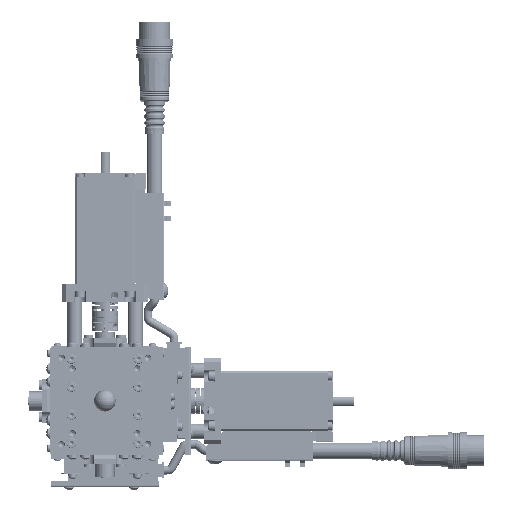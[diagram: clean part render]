
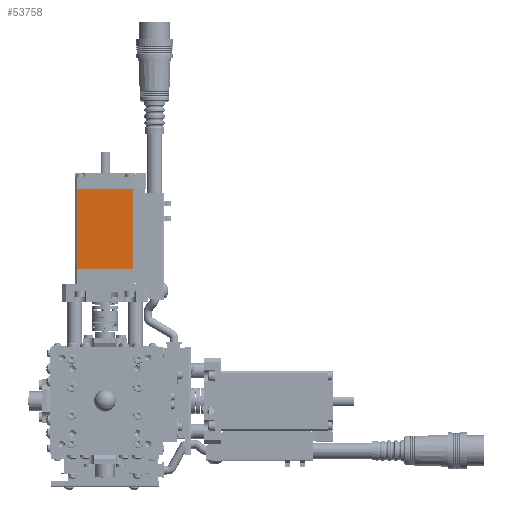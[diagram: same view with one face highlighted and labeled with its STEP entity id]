
A CAD part, top view. The second image highlights one B-rep face of the part: STEP entity #53758.
In plain terms, the highlighted planar face has unit normal (0, 0, 1).
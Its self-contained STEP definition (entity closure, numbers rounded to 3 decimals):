
#2306 = EDGE_CURVE ( 'NONE', #45730, #76812, #139454, .T. ) ;
#13093 = VERTEX_POINT ( 'NONE', #154929 ) ;
#22256 = EDGE_CURVE ( 'NONE', #45730, #13093, #37128, .T. ) ;
#32355 = CARTESIAN_POINT ( 'NONE',  ( -25.589, 75.856, -48.629 ) ) ;
#35483 = EDGE_CURVE ( 'NONE', #76812, #139458, #57695, .T. ) ;
#37128 = LINE ( 'NONE', #121411, #128581 ) ;
#45730 = VERTEX_POINT ( 'NONE', #81899 ) ;
#51858 = DIRECTION ( 'NONE',  ( 1., 0., 0. ) ) ;
#52077 = FACE_OUTER_BOUND ( 'NONE', #142734, .T. ) ;
#53758 = ADVANCED_FACE ( 'NONE', ( #52077 ), #78524, .T. ) ;
#57695 = LINE ( 'NONE', #101370, #139028 ) ;
#59682 = EDGE_CURVE ( 'NONE', #13093, #139458, #100653, .T. ) ;
#62196 = VECTOR ( 'NONE', #167007, 1000. ) ;
#69971 = DIRECTION ( 'NONE',  ( -1., 0., 0. ) ) ;
#74275 = DIRECTION ( 'NONE',  ( 0., -1., 0. ) ) ;
#76812 = VERTEX_POINT ( 'NONE', #96371 ) ;
#77457 = ORIENTED_EDGE ( 'NONE', *, *, #22256, .F. ) ;
#77805 = ORIENTED_EDGE ( 'NONE', *, *, #59682, .F. ) ;
#78524 = PLANE ( 'NONE',  #90870 ) ;
#81134 = DIRECTION ( 'NONE',  ( 0., -1., 0. ) ) ;
#81899 = CARTESIAN_POINT ( 'NONE',  ( -33.099, 101.547, -48.629 ) ) ;
#90870 = AXIS2_PLACEMENT_3D ( 'NONE', #116562, #92109, #51858 ) ;
#92109 = DIRECTION ( 'NONE',  ( 0., 0., 1. ) ) ;
#96371 = CARTESIAN_POINT ( 'NONE',  ( -70.089, 101.547, -48.629 ) ) ;
#100653 = LINE ( 'NONE', #32355, #125144 ) ;
#101370 = CARTESIAN_POINT ( 'NONE',  ( -70.089, 75.856, -48.629 ) ) ;
#116562 = CARTESIAN_POINT ( 'NONE',  ( -25.589, 75.856, -48.629 ) ) ;
#117434 = ORIENTED_EDGE ( 'NONE', *, *, #2306, .T. ) ;
#121411 = CARTESIAN_POINT ( 'NONE',  ( -33.099, 75.856, -48.629 ) ) ;
#125144 = VECTOR ( 'NONE', #69971, 1000. ) ;
#128581 = VECTOR ( 'NONE', #81134, 1000. ) ;
#134269 = CARTESIAN_POINT ( 'NONE',  ( -70.089, 75.856, -48.629 ) ) ;
#139028 = VECTOR ( 'NONE', #74275, 1000. ) ;
#139454 = LINE ( 'NONE', #165901, #62196 ) ;
#139458 = VERTEX_POINT ( 'NONE', #134269 ) ;
#142734 = EDGE_LOOP ( 'NONE', ( #77457, #117434, #159028, #77805 ) ) ;
#154929 = CARTESIAN_POINT ( 'NONE',  ( -33.099, 75.856, -48.629 ) ) ;
#159028 = ORIENTED_EDGE ( 'NONE', *, *, #35483, .T. ) ;
#165901 = CARTESIAN_POINT ( 'NONE',  ( -25.589, 101.547, -48.629 ) ) ;
#167007 = DIRECTION ( 'NONE',  ( -1., 0., 0. ) ) ;
